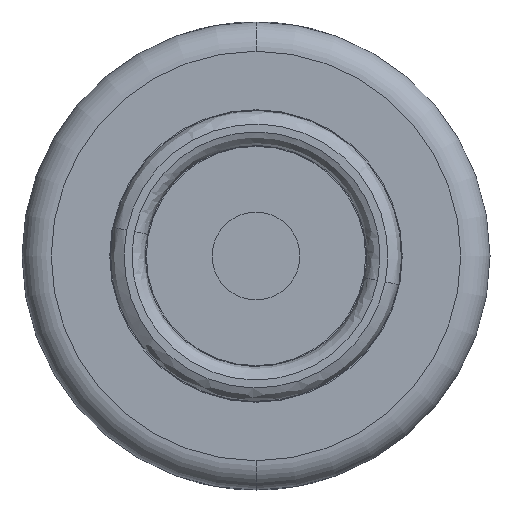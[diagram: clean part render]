
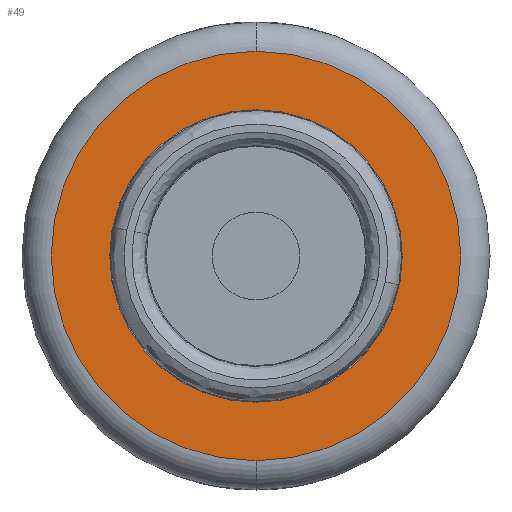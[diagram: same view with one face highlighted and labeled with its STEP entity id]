
A CAD part, front view. The second image highlights one B-rep face of the part: STEP entity #49.
In plain terms, the highlighted planar face has unit normal (0, -1, 0).
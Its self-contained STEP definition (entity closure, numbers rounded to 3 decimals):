
#3 = ORIENTED_EDGE ( 'NONE', *, *, #394, .F. ) ;
#40 = EDGE_CURVE ( 'NONE', #144, #140, #849, .T. ) ;
#41 = ORIENTED_EDGE ( 'NONE', *, *, #147, .T. ) ;
#42 = ORIENTED_EDGE ( 'NONE', *, *, #40, .T. ) ;
#44 = EDGE_LOOP ( 'NONE', ( #42, #41 ) ) ;
#46 = EDGE_LOOP ( 'NONE', ( #48, #3 ) ) ;
#47 = EDGE_CURVE ( 'NONE', #124, #123, #833, .T. ) ;
#48 = ORIENTED_EDGE ( 'NONE', *, *, #47, .F. ) ;
#49 = ADVANCED_FACE ( 'NONE', ( #828, #827 ), #826, .F. ) ;
#123 = VERTEX_POINT ( 'NONE', #1010 ) ;
#124 = VERTEX_POINT ( 'NONE', #1009 ) ;
#140 = VERTEX_POINT ( 'NONE', #981 ) ;
#144 = VERTEX_POINT ( 'NONE', #1040 ) ;
#147 = EDGE_CURVE ( 'NONE', #140, #144, #1039, .T. ) ;
#394 = EDGE_CURVE ( 'NONE', #123, #124, #1608, .T. ) ;
#822 = DIRECTION ( 'NONE',  ( 0., 0., 1. ) ) ;
#823 = DIRECTION ( 'NONE',  ( 0., 1., 0. ) ) ;
#824 = CARTESIAN_POINT ( 'NONE',  ( 0., 0., 0. ) ) ;
#825 = AXIS2_PLACEMENT_3D ( 'NONE', #824, #823, #822 ) ;
#826 = PLANE ( 'NONE',  #825 ) ;
#827 = FACE_OUTER_BOUND ( 'NONE', #44, .T. ) ;
#828 = FACE_BOUND ( 'NONE', #46, .T. ) ;
#829 = DIRECTION ( 'NONE',  ( 0., 0., -1. ) ) ;
#830 = DIRECTION ( 'NONE',  ( 0., -1., 0. ) ) ;
#831 = CARTESIAN_POINT ( 'NONE',  ( 0., 0., 0. ) ) ;
#832 = AXIS2_PLACEMENT_3D ( 'NONE', #831, #830, #829 ) ;
#833 = CIRCLE ( 'NONE', #832, 10. ) ;
#845 = DIRECTION ( 'NONE',  ( 0., 0., 1. ) ) ;
#846 = DIRECTION ( 'NONE',  ( 0., -1., 0. ) ) ;
#847 = CARTESIAN_POINT ( 'NONE',  ( 0., 0., 0. ) ) ;
#848 = AXIS2_PLACEMENT_3D ( 'NONE', #847, #846, #845 ) ;
#849 = CIRCLE ( 'NONE', #848, 14. ) ;
#981 = CARTESIAN_POINT ( 'NONE',  ( 0., 0., -14. ) ) ;
#1009 = CARTESIAN_POINT ( 'NONE',  ( 0., 0., -10. ) ) ;
#1010 = CARTESIAN_POINT ( 'NONE',  ( 0., 0., 10. ) ) ;
#1035 = DIRECTION ( 'NONE',  ( 0., 0., 1. ) ) ;
#1036 = DIRECTION ( 'NONE',  ( 0., -1., 0. ) ) ;
#1037 = CARTESIAN_POINT ( 'NONE',  ( 0., 0., 0. ) ) ;
#1038 = AXIS2_PLACEMENT_3D ( 'NONE', #1037, #1036, #1035 ) ;
#1039 = CIRCLE ( 'NONE', #1038, 14. ) ;
#1040 = CARTESIAN_POINT ( 'NONE',  ( 0., 0., 14. ) ) ;
#1604 = DIRECTION ( 'NONE',  ( 0., 0., -1. ) ) ;
#1605 = DIRECTION ( 'NONE',  ( 0., -1., 0. ) ) ;
#1606 = CARTESIAN_POINT ( 'NONE',  ( 0., 0., 0. ) ) ;
#1607 = AXIS2_PLACEMENT_3D ( 'NONE', #1606, #1605, #1604 ) ;
#1608 = CIRCLE ( 'NONE', #1607, 10. ) ;
